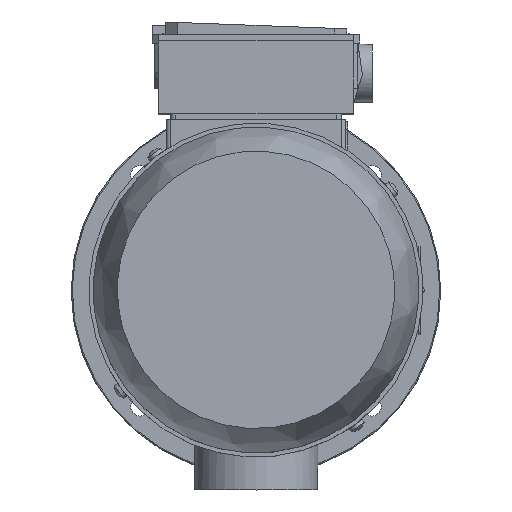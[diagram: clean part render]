
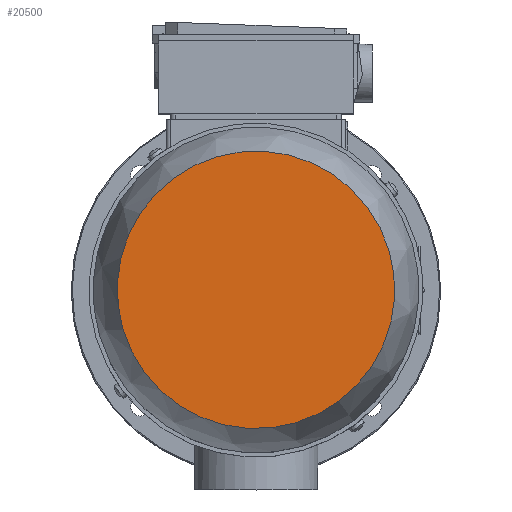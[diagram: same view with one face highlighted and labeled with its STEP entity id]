
A CAD part, top view. The second image highlights one B-rep face of the part: STEP entity #20500.
In plain terms, the highlighted planar face has unit normal (0, 0, 1).
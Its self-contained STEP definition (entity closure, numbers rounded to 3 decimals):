
#677=PLANE('',#22045);
#1772=FACE_OUTER_BOUND('',#2927,.T.);
#2927=EDGE_LOOP('',(#17392,#17393));
#4136=CIRCLE('',#22046,67.666);
#4137=CIRCLE('',#22047,67.666);
#9214=VERTEX_POINT('',#37514);
#9215=VERTEX_POINT('',#37515);
#11979=EDGE_CURVE('',#9214,#9215,#4136,.T.);
#11980=EDGE_CURVE('',#9215,#9214,#4137,.T.);
#17392=ORIENTED_EDGE('',*,*,#11979,.T.);
#17393=ORIENTED_EDGE('',*,*,#11980,.T.);
#20500=ADVANCED_FACE('',(#1772),#677,.T.);
#22045=AXIS2_PLACEMENT_3D('',#37513,#26654,#26655);
#22046=AXIS2_PLACEMENT_3D('',#37516,#26656,#26657);
#22047=AXIS2_PLACEMENT_3D('',#37517,#26658,#26659);
#26654=DIRECTION('center_axis',(0.,0.,
1.));
#26655=DIRECTION('ref_axis',(-0.803,-0.596,0.));
#26656=DIRECTION('center_axis',(0.,0.,
1.));
#26657=DIRECTION('ref_axis',(0.596,-0.803,0.));
#26658=DIRECTION('center_axis',(0.,0.,
1.));
#26659=DIRECTION('ref_axis',(0.596,-0.803,0.));
#37513=CARTESIAN_POINT('Origin',(0.,0.,
232.618));
#37514=CARTESIAN_POINT('',(-40.328,54.336,232.618));
#37515=CARTESIAN_POINT('',(54.336,40.328,232.618));
#37516=CARTESIAN_POINT('Origin',(0.,0.,
232.618));
#37517=CARTESIAN_POINT('Origin',(0.,0.,
232.618));
